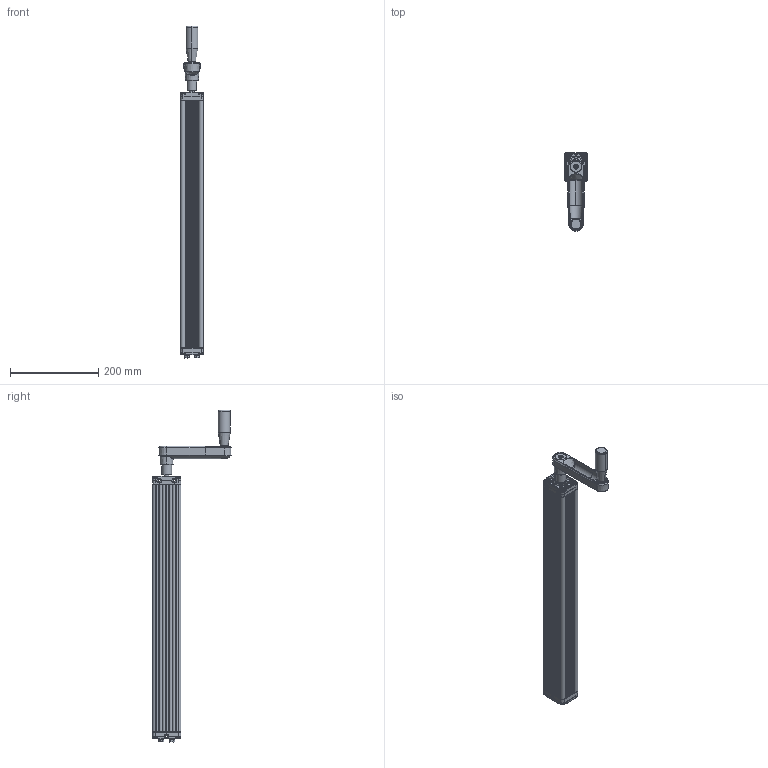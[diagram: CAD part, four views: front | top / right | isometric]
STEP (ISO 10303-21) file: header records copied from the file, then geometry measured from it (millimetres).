
FILE_DESCRIPTION (( 'STEP AP203' ), '1' );
FILE_NAME ('QXY23 Crank.STEP', '2014-01-22T20:48:08', ( '' ), ( '' ), 'SwSTEP 2.0', 'SolidWorks 2013', '' );
FILE_SCHEMA (( 'CONFIG_CONTROL_DESIGN' ));
Length unit declared in the file: millimetre
Products named in the file (1): QXY23 Crank
Bounding box: 52 x 178.32 x 750.84 mm (x, y, z)
Volume: 585732.2 mm3; surface area: 391766 mm2
Topology: 31 solids, 31 shells, 3408 faces, 8444 edges, 5143 vertices
Faces by surface type: cylinder 1333, plane 764, cone 476, torus 473, bspline 331, sphere 31
Entity records: 118174 total; most frequent: CARTESIAN_POINT 39462, ORIENTED_EDGE 16782, DIRECTION 16634, EDGE_CURVE 8391, AXIS2_PLACEMENT_3D 6761, VERTEX_POINT 5137, CIRCLE 3683, EDGE_LOOP 3558
